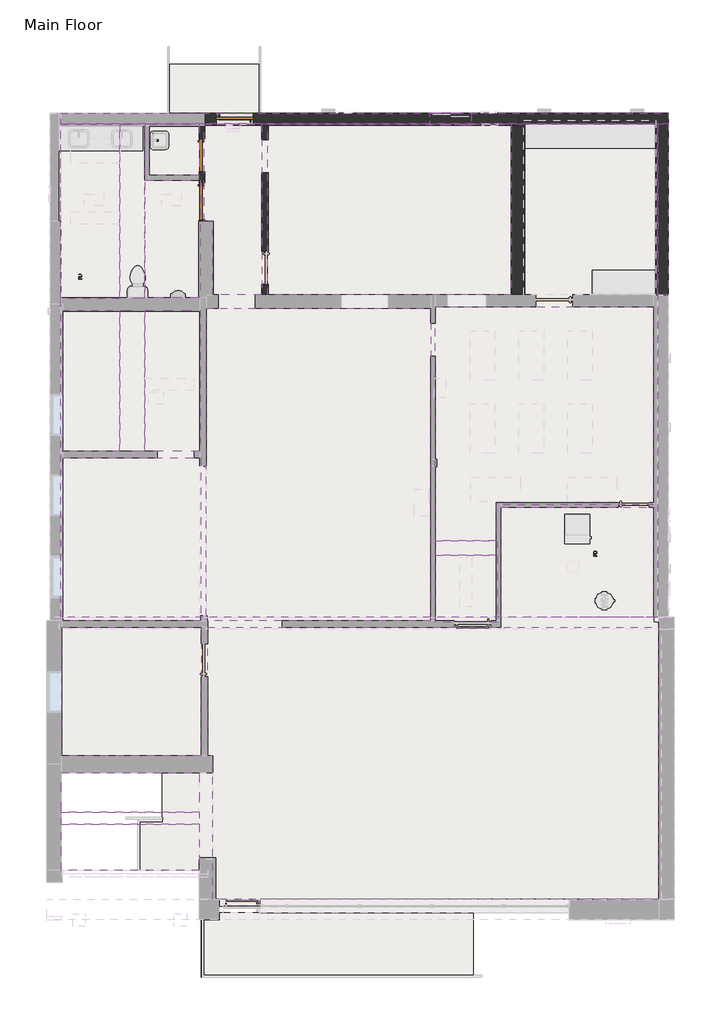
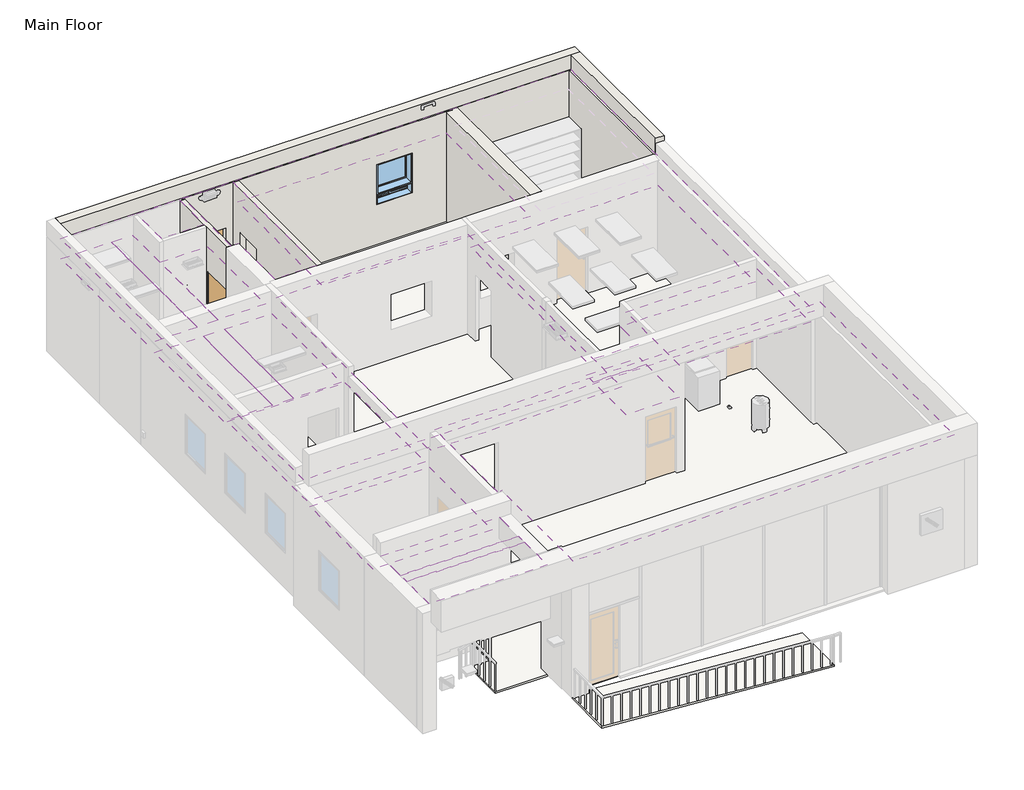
# One storey, part 2 of 4: 20 coverings, 8 walls, 6 doors, 3 slabs, 2 windows, 1 roof.
"""IFC4 building model written with IfcOpenShell, lengths in millimetres."""

from ifc_helpers import new_model, si_unit, frame, origin, place, context, project, spatial, polyline, circle_curve, outline, extrude, faceted_brep, transform, mapped, element, save
from ifc_brep_helpers import plane_surface, revolved_surface, advanced_brep
from components import door_528a3d63, door_7f0c49ba, door_8cb6f799, door_2_8_1d73a7a9, door_e7cd8011, door_4347636e, default_1_75eb9743, default_1_7bcdb6ec

model = new_model("IFC4")

# Units and contexts
model_context = context("Model", 3, world=origin())
ifc_project = project(units=[si_unit("LENGTHUNIT", "METRE", prefix="MILLI")], contexts=[model_context])

# Site, building, storey
site = spatial("IfcSite", under=ifc_project)
building = spatial("IfcBuilding", under=site)
storey = spatial("IfcBuildingStorey", under=building, Name="Main Floor", Elevation=0.0)

# Coverings
placement = place(None, origin())
element("IfcCovering", 1, ObjectType="2\"\" Open Ceiling", at=placement, inside=storey, context=model_context, shape_type="SweptSolid", body=[
    extrude(outline(polyline([(3047.7952, 10042.525), (3047.7952, 11299.825), (4279.9, 11299.825), (4279.9, 10042.525), (3047.7952, 10042.525)])), frame((0.0, 0.0, 3352.8), z_axis=(0.0, 0.0, 1.0), x_axis=(1.0, 0.0, 0.0)), (0.0, 0.0, 1.0), 12.7),
])
element("IfcCovering", 2, ObjectType="2\"\" Open Ceiling", at=placement, inside=storey, context=model_context, shape_type="SweptSolid", body=[
    extrude(outline(polyline([(4400.3452, 11299.825), (5822.95, 11299.825), (5822.95, 7092.95), (4616.2452, 7092.95), (4616.2452, 8896.35), (4400.3452, 8896.35), (4400.3452, 11299.825)])), frame((0.0, 0.0, 3352.8), z_axis=(0.0, 0.0, 1.0), x_axis=(1.0, 0.0, 0.0)), (0.0, 0.0, 1.0), 12.7),
])
element("IfcCovering", 3, ObjectType="2\"\" Open Ceiling", at=placement, inside=storey, context=model_context, shape_type="SweptSolid", body=[
    extrude(outline(polyline([(15494.0, 1852.3857), (15494.0, -852.678), (11717.5643, -852.678), (11717.5643, 1852.3857), (15494.0, 1852.3857)])), frame((0.0, 0.0, 3048.0), z_axis=(0.0, 0.0, 1.0), x_axis=(1.0, 0.0, 0.0)), (0.0, 0.0, 1.0), 12.7),
])
element("IfcCovering", 4, ObjectType="2\"\" Open Ceiling", at=placement, inside=storey, context=model_context, shape_type="SweptSolid", body=[
    extrude(outline(polyline([(15614.65, -1106.678), (15614.65, -7816.85), (4616.45, -7816.85), (4616.45, -4267.2), (4495.8, -4267.2), (4495.8, -1106.678), (15614.65, -1106.678)])), frame((0.0, 0.0, 3784.6), z_axis=(0.0, 0.0, 1.0), x_axis=(1.0, 0.0, 0.0)), (0.0, 0.0, 1.0), 12.7),
])
element("IfcCovering", 5, ObjectType="2\"\" Open Ceiling", at=placement, inside=storey, context=model_context, shape_type="SweptSolid", body=[
    extrude(outline(polyline([(4457.7, 6762.75), (9988.55, 6762.75), (9988.55, -941.578), (4483.1, -941.578), (4483.1, -825.5), (4457.7, -825.5), (4457.7, 6762.75)]), holes=[polyline([(9918.7, 2277.8357), (9601.2, 2277.8357), (9601.2, 1655.5357), (9918.7, 1655.5357), (9918.7, 2277.8357)])]), frame((0.0, 0.0, 3048.0), z_axis=(0.0, 0.0, 1.0), x_axis=(1.0, 0.0, 0.0)), (0.0, 0.0, 1.0), 12.7),
])
element("IfcCovering", 6, ObjectType="2\"\" Open Ceiling", at=placement, inside=storey, context=model_context, shape_type="SweptSolid", body=[
    extrude(outline(polyline([(676.275, 2203.6861217), (1031.875, 2610.0861217), (1031.875, 2590.8), (676.275, 2184.4), (676.275, 2203.6861217)])), frame((10102.85, 0.0, 0.0), z_axis=(1.0, 0.0, 0.0), x_axis=(0.0, 1.0, 0.0)), (0.0, 0.0, 1.0), 1523.7952),
])
element("IfcCovering", 7, ObjectType="2'x2' grid", at=placement, inside=storey, context=model_context, shape_type="Brep", body=[
    faceted_brep([(4318.0, 3073.4, 2795.2), (914.1952, 3073.4, 2795.2), (914.1952, -941.578, 2795.2), (4318.0, -941.578, 2795.2), (3727.2452, 2074.6357, 2795.2), (4044.7452, 2074.6357, 2795.2), (4044.7452, 1807.9357, 2795.2), (3727.2452, 1807.9357, 2795.2), (4318.0, 3073.4, 2743.2), (4318.0, -941.578, 2743.2), (914.1952, -941.578, 2743.2), (914.1952, 3073.4, 2743.2), (3727.2452, 2074.6357, 2743.2), (3727.2452, 1807.9357, 2743.2), (4044.7452, 1807.9357, 2743.2), (4044.7452, 2074.6357, 2743.2), (3244.6452, 2298.625, 2743.2), (3244.6452, 1130.225, 2743.2), (3498.6452, 1130.225, 2743.2), (3498.6452, 2298.625, 2743.2), (3244.6452, 1104.825, 2743.2), (3244.6452, -63.575, 2743.2), (3498.6452, -63.575, 2743.2), (3498.6452, 1104.825, 2743.2), (1746.0452, 2298.625, 2743.2), (1746.0452, 1130.225, 2743.2), (2000.0452, 1130.225, 2743.2), (2000.0452, 2298.625, 2743.2), (1746.0452, 1104.825, 2743.2), (1746.0452, -63.575, 2743.2), (2000.0452, -63.575, 2743.2), (2000.0452, 1104.825, 2743.2), (3244.6452, 2298.625, 2794.0), (3244.6452, 1130.225, 2794.0), (3498.6452, 1130.225, 2794.0), (3498.6452, 2298.625, 2794.0), (3244.6452, 1104.825, 2794.0), (3244.6452, -63.575, 2794.0), (3498.6452, -63.575, 2794.0), (3498.6452, 1104.825, 2794.0), (1746.0452, 2298.625, 2794.0), (1746.0452, 1130.225, 2794.0), (2000.0452, 1130.225, 2794.0), (2000.0452, 2298.625, 2794.0), (1746.0452, 1104.825, 2794.0), (1746.0452, -63.575, 2794.0), (2000.0452, -63.575, 2794.0), (2000.0452, 1104.825, 2794.0)], [[[0, 1, 2, 3], [4, 5, 6, 7]], [[8, 9, 10, 11], [12, 13, 14, 15], [16, 17, 18, 19], [20, 21, 22, 23], [24, 25, 26, 27], [28, 29, 30, 31]], [[1, 0, 8, 11]], [[2, 1, 11, 10]], [[3, 2, 10, 9]], [[0, 3, 9, 8]], [[5, 4, 12, 15]], [[6, 5, 15, 14]], [[7, 6, 14, 13]], [[4, 7, 13, 12]], [[32, 33, 17, 16]], [[33, 34, 18, 17]], [[34, 35, 19, 18]], [[35, 32, 16, 19]], [[32, 35, 34, 33]], [[36, 37, 21, 20]], [[37, 38, 22, 21]], [[38, 39, 23, 22]], [[39, 36, 20, 23]], [[36, 39, 38, 37]], [[40, 41, 25, 24]], [[41, 42, 26, 25]], [[42, 43, 27, 26]], [[43, 40, 24, 27]], [[40, 43, 42, 41]], [[44, 45, 29, 28]], [[45, 46, 30, 29]], [[46, 47, 31, 30]], [[47, 44, 28, 31]], [[44, 47, 46, 45]]]),
])
element("IfcCovering", 8, ObjectType="2'x2' grid", at=placement, inside=storey, context=model_context, shape_type="SweptSolid", body=[
    extrude(outline(polyline([(4286.0452, -4686.3), (4286.0452, -5661.025), (876.0952, -5661.025), (876.0952, -4686.3), (4286.0452, -4686.3)])), frame((0.0, 0.0, 3352.8), z_axis=(0.0, 0.0, 1.0), x_axis=(1.0, 0.0, 0.0)), (0.0, 0.0, 1.0), 52.0),
])
element("IfcCovering", 9, ObjectType="2'x2' grid", at=placement, inside=storey, context=model_context, shape_type="Brep", body=[
    faceted_brep([(4286.0452, -5661.025, 3404.8), (882.4452, -5661.025, 3404.8), (882.4452, -5965.825, 3404.8), (4286.0452, -5965.825, 3404.8), (882.4452, -5661.025, 3352.8), (4286.0452, -5661.025, 3352.8), (4286.0452, -5965.825, 3352.8), (882.4452, -5965.825, 3352.8), (3778.0452, -5686.425, 3352.8), (2609.6452, -5686.425, 3352.8), (2609.6452, -5940.425, 3352.8), (3778.0452, -5940.425, 3352.8), (2578.0452, -5686.425, 3352.8), (1409.6452, -5686.425, 3352.8), (1409.6452, -5940.425, 3352.8), (2578.0452, -5940.425, 3352.8), (3778.0452, -5686.425, 3403.6), (3778.0452, -5940.425, 3403.6), (2609.6452, -5940.425, 3403.6), (2609.6452, -5686.425, 3403.6), (2578.0452, -5686.425, 3403.6), (1409.6452, -5686.425, 3403.6), (1409.6452, -5940.425, 3403.6), (2578.0452, -5940.425, 3403.6)], [[[0, 1, 2, 3]], [[4, 5, 6, 7], [8, 9, 10, 11], [12, 13, 14, 15]], [[1, 0, 5, 4]], [[2, 1, 4, 7]], [[3, 2, 7, 6]], [[0, 3, 6, 5]], [[16, 17, 18, 19]], [[16, 19, 9, 8]], [[19, 18, 10, 9]], [[18, 17, 11, 10]], [[17, 16, 8, 11]], [[20, 21, 13, 12]], [[21, 22, 14, 13]], [[22, 23, 15, 14]], [[23, 20, 12, 15]], [[20, 23, 22, 21]]]),
])
element("IfcCovering", 10, ObjectType="2'x2' grid", at=placement, inside=storey, context=model_context, shape_type="SweptSolid", body=[
    extrude(outline(polyline([(4286.0452, -5965.825), (4286.0452, -7100.57), (876.0952, -7100.57), (876.0952, -5965.825), (4286.0452, -5965.825)])), frame((0.0, 0.0, 3352.8), z_axis=(0.0, 0.0, 1.0), x_axis=(1.0, 0.0, 0.0)), (0.0, 0.0, 1.0), 52.0),
])
element("IfcCovering", 11, ObjectType="2'x2' grid", at=placement, inside=storey, context=model_context, shape_type="Brep", body=[
    faceted_brep([(11626.6452, 676.275, 2236.4), (10102.85, 676.275, 2236.4), (10102.85, -974.725, 2236.4), (11626.6452, -974.725, 2236.4), (10102.85, 676.275, 2184.4), (11626.6452, 676.275, 2184.4), (11626.6452, -974.725, 2184.4), (10102.85, -974.725, 2184.4), (10728.4396867, 592.406585, 2184.4), (10728.4396867, -575.993415, 2184.4), (10982.4396867, -575.993415, 2184.4), (10982.4396867, 592.406585, 2184.4), (10728.4396867, 592.406585, 2235.2), (10982.4396867, 592.406585, 2235.2), (10982.4396867, -575.993415, 2235.2), (10728.4396867, -575.993415, 2235.2)], [[[0, 1, 2, 3]], [[4, 5, 6, 7], [8, 9, 10, 11]], [[1, 0, 5, 4]], [[2, 1, 4, 7]], [[3, 2, 7, 6]], [[0, 3, 6, 5]], [[12, 13, 14, 15]], [[12, 15, 9, 8]], [[15, 14, 10, 9]], [[14, 13, 11, 10]], [[13, 12, 8, 11]]]),
])
element("IfcCovering", 12, ObjectType="2'x2' grid", at=placement, inside=storey, context=model_context, shape_type="Brep", body=[
    faceted_brep([(15494.0, 6800.85, 2642.8), (10102.85, 6800.85, 2642.8), (10102.85, 1031.875, 2642.8), (11603.2643, 1031.875, 2642.8), (11603.2643, 1924.05, 2642.8), (15494.0, 1924.05, 2642.8), (10325.1, 5003.8, 2642.8), (10325.1, 4584.7, 2642.8), (10109.2, 4584.7, 2642.8), (10109.2, 5003.8, 2642.8), (15494.0, 6800.85, 2590.8), (15494.0, 1924.05, 2590.8), (11603.2643, 1924.05, 2590.8), (11603.2643, 1031.875, 2590.8), (10102.85, 1031.875, 2590.8), (10102.85, 6800.85, 2590.8), (10991.85, 6184.9, 2590.8), (10991.85, 5016.5, 2590.8), (11550.65, 5016.5, 2590.8), (11550.65, 6184.9, 2590.8), (12192.0, 6184.9, 2590.8), (12192.0, 5016.5, 2590.8), (12750.8, 5016.5, 2590.8), (12750.8, 6184.9, 2590.8), (13395.325, 6181.725, 2590.8), (13395.325, 5013.325, 2590.8), (13954.125, 5013.325, 2590.8), (13954.125, 6181.725, 2590.8), (10987.3143, 4381.5, 2590.8), (10987.3143, 3213.1, 2590.8), (11546.1143, 3213.1, 2590.8), (11546.1143, 4381.5, 2590.8), (12191.797781, 4378.5366196, 2590.8), (12191.797781, 3210.1366196, 2590.8), (12750.597781, 3210.1366196, 2590.8), (12750.597781, 4378.5366196, 2590.8), (13395.122781, 4381.7116196, 2590.8), (13395.122781, 3213.3116196, 2590.8), (13953.922781, 3213.3116196, 2590.8), (13953.922781, 4381.7116196, 2590.8), (13389.2, 2017.4857, 2590.8), (14557.6, 2017.4857, 2590.8), (14557.6, 2576.2857, 2590.8), (13389.2, 2576.2857, 2590.8), (11000.0143, 2017.4857, 2590.8), (12168.4143, 2017.4857, 2590.8), (12168.4143, 2576.2857, 2590.8), (11000.0143, 2576.2857, 2590.8), (10325.1, 5003.8, 2590.8), (10109.2, 5003.8, 2590.8), (10109.2, 4584.7, 2590.8), (10325.1, 4584.7, 2590.8), (10991.85, 6184.9, 2641.6), (10991.85, 5016.5, 2641.6), (11550.65, 5016.5, 2641.6), (11550.65, 6184.9, 2641.6), (12192.0, 6184.9, 2641.6), (12192.0, 5016.5, 2641.6), (12750.8, 5016.5, 2641.6), (12750.8, 6184.9, 2641.6), (13395.325, 6181.725, 2641.6), (13395.325, 5013.325, 2641.6), (13954.125, 5013.325, 2641.6), (13954.125, 6181.725, 2641.6), (10987.3143, 4381.5, 2641.6), (10987.3143, 3213.1, 2641.6), (11546.1143, 3213.1, 2641.6), (11546.1143, 4381.5, 2641.6), (12191.797781, 4378.5366196, 2641.6), (12191.797781, 3210.1366196, 2641.6), (12750.597781, 3210.1366196, 2641.6), (12750.597781, 4378.5366196, 2641.6), (13395.122781, 4381.7116196, 2641.6), (13395.122781, 3213.3116196, 2641.6), (13953.922781, 3213.3116196, 2641.6), (13953.922781, 4381.7116196, 2641.6), (13389.2, 2017.4857, 2641.6), (14557.6, 2017.4857, 2641.6), (14557.6, 2576.2857, 2641.6), (13389.2, 2576.2857, 2641.6), (11000.0143, 2017.4857, 2641.6), (12168.4143, 2017.4857, 2641.6), (12168.4143, 2576.2857, 2641.6), (11000.0143, 2576.2857, 2641.6)], [[[0, 1, 2, 3, 4, 5], [6, 7, 8, 9]], [[10, 11, 12, 13, 14, 15], [16, 17, 18, 19], [20, 21, 22, 23], [24, 25, 26, 27], [28, 29, 30, 31], [32, 33, 34, 35], [36, 37, 38, 39], [40, 41, 42, 43], [44, 45, 46, 47], [48, 49, 50, 51]], [[1, 0, 10, 15]], [[2, 1, 15, 14]], [[3, 2, 14, 13]], [[4, 3, 13, 12]], [[5, 4, 12, 11]], [[0, 5, 11, 10]], [[52, 53, 17, 16]], [[53, 54, 18, 17]], [[54, 55, 19, 18]], [[55, 52, 16, 19]], [[52, 55, 54, 53]], [[56, 57, 21, 20]], [[57, 58, 22, 21]], [[58, 59, 23, 22]], [[59, 56, 20, 23]], [[56, 59, 58, 57]], [[60, 61, 25, 24]], [[61, 62, 26, 25]], [[62, 63, 27, 26]], [[63, 60, 24, 27]], [[60, 63, 62, 61]], [[64, 65, 29, 28]], [[65, 66, 30, 29]], [[66, 67, 31, 30]], [[67, 64, 28, 31]], [[64, 67, 66, 65]], [[68, 69, 33, 32]], [[69, 70, 34, 33]], [[70, 71, 35, 34]], [[71, 68, 32, 35]], [[68, 71, 70, 69]], [[72, 73, 37, 36]], [[73, 74, 38, 37]], [[74, 75, 39, 38]], [[75, 72, 36, 39]], [[72, 75, 74, 73]], [[76, 77, 41, 40]], [[77, 78, 42, 41]], [[78, 79, 43, 42]], [[79, 76, 40, 43]], [[76, 79, 78, 77]], [[80, 81, 45, 44]], [[81, 82, 46, 45]], [[82, 83, 47, 46]], [[83, 80, 44, 47]], [[80, 83, 82, 81]], [[7, 6, 48, 51]], [[8, 7, 51, 50]], [[9, 8, 50, 49]], [[6, 9, 49, 48]]]),
])
element("IfcCovering", 13, ObjectType="2'x4' grid", at=placement, inside=storey, context=model_context, shape_type="Brep", body=[
    faceted_brep([(4330.7, -4267.2, 2744.4), (4330.7, -1106.678, 2744.4), (888.7952, -1106.678, 2744.4), (888.7952, -4267.2, 2744.4), (4330.7, -4267.2, 2692.4), (888.7952, -4267.2, 2692.4), (888.7952, -1106.678, 2692.4), (4330.7, -1106.678, 2692.4), (3244.6452, -1463.675, 2692.4), (3244.6452, -2632.075, 2692.4), (3498.6452, -2632.075, 2692.4), (3498.6452, -1463.675, 2692.4), (3244.6452, -2670.175, 2692.4), (3244.6452, -3838.575, 2692.4), (3498.6452, -3838.575, 2692.4), (3498.6452, -2670.175, 2692.4), (2044.4952, -1463.675, 2692.4), (2044.4952, -2632.075, 2692.4), (2298.4952, -2632.075, 2692.4), (2298.4952, -1463.675, 2692.4), (2044.4952, -2670.175, 2692.4), (2044.4952, -3838.575, 2692.4), (2298.4952, -3838.575, 2692.4), (2298.4952, -2670.175, 2692.4), (3244.6452, -1463.675, 2743.2), (3244.6452, -2632.075, 2743.2), (3498.6452, -2632.075, 2743.2), (3498.6452, -1463.675, 2743.2), (3244.6452, -2670.175, 2743.2), (3244.6452, -3838.575, 2743.2), (3498.6452, -3838.575, 2743.2), (3498.6452, -2670.175, 2743.2), (2044.4952, -1463.675, 2743.2), (2044.4952, -2632.075, 2743.2), (2298.4952, -2632.075, 2743.2), (2298.4952, -1463.675, 2743.2), (2044.4952, -2670.175, 2743.2), (2044.4952, -3838.575, 2743.2), (2298.4952, -3838.575, 2743.2), (2298.4952, -2670.175, 2743.2)], [[[0, 1, 2, 3]], [[4, 5, 6, 7], [8, 9, 10, 11], [12, 13, 14, 15], [16, 17, 18, 19], [20, 21, 22, 23]], [[1, 0, 4, 7]], [[2, 1, 7, 6]], [[3, 2, 6, 5]], [[0, 3, 5, 4]], [[24, 25, 9, 8]], [[25, 26, 10, 9]], [[26, 27, 11, 10]], [[27, 24, 8, 11]], [[24, 27, 26, 25]], [[28, 29, 13, 12]], [[29, 30, 14, 13]], [[30, 31, 15, 14]], [[31, 28, 12, 15]], [[28, 31, 30, 29]], [[32, 33, 17, 16]], [[33, 34, 18, 17]], [[34, 35, 19, 18]], [[35, 32, 16, 19]], [[32, 35, 34, 33]], [[36, 37, 21, 20]], [[37, 38, 22, 21]], [[38, 39, 23, 22]], [[39, 36, 20, 23]], [[36, 39, 38, 37]]]),
])
element("IfcCovering", 14, ObjectType="2'x4' grid", at=placement, inside=storey, context=model_context, shape_type="Brep", body=[
    faceted_brep([(4311.4452, 3238.5, 2693.6), (4311.4452, 6715.125, 2693.6), (2933.4952, 6715.125, 2693.6), (2933.4952, 3238.5, 2693.6), (3060.7, 4686.3, 2693.6), (3378.2, 4686.3, 2693.6), (3378.2, 4419.6, 2693.6), (3060.7, 4419.6, 2693.6), (4311.4452, 3238.5, 2641.6), (2933.4952, 3238.5, 2641.6), (2933.4952, 6715.125, 2641.6), (4311.4452, 6715.125, 2641.6), (4121.15, 5016.5, 2641.6), (2952.75, 5016.5, 2641.6), (2952.75, 4762.5, 2641.6), (4121.15, 4762.5, 2641.6), (3060.7, 4686.3, 2641.6), (3060.7, 4419.6, 2641.6), (3378.2, 4419.6, 2641.6), (3378.2, 4686.3, 2641.6), (4121.15, 5016.5, 2692.4), (2952.75, 5016.5, 2692.4), (2952.75, 4762.5, 2692.4), (4121.15, 4762.5, 2692.4)], [[[0, 1, 2, 3], [4, 5, 6, 7]], [[8, 9, 10, 11], [12, 13, 14, 15], [16, 17, 18, 19]], [[0, 3, 9, 8]], [[1, 0, 8, 11]], [[2, 1, 11, 10]], [[3, 2, 10, 9]], [[20, 21, 13, 12]], [[21, 22, 14, 13]], [[22, 23, 15, 14]], [[23, 20, 12, 15]], [[20, 23, 22, 21]], [[5, 4, 16, 19]], [[6, 5, 19, 18]], [[7, 6, 18, 17]], [[4, 7, 17, 16]]]),
])
element("IfcCovering", 15, ObjectType="2'x4' grid", at=placement, inside=storey, context=model_context, shape_type="Brep", body=[
    faceted_brep([(2323.8952, 11299.825, 2795.2), (863.3952, 11299.825, 2795.2), (863.3952, 6997.7, 2795.2), (2323.8952, 6997.7, 2795.2), (1479.55, 9540.875, 2795.2), (1898.65, 9540.875, 2795.2), (1898.65, 9324.975, 2795.2), (1479.55, 9324.975, 2795.2), (863.3952, 11299.825, 2743.2), (2323.8952, 11299.825, 2743.2), (2323.8952, 6997.7, 2743.2), (863.3952, 6997.7, 2743.2), (2304.8452, 9121.775, 2743.2), (1136.4452, 9121.775, 2743.2), (1136.4452, 8867.775, 2743.2), (2304.8452, 8867.775, 2743.2), (2304.8452, 10931.525, 2743.2), (1136.4452, 10931.525, 2743.2), (1136.4452, 10372.725, 2743.2), (2304.8452, 10372.725, 2743.2), (1898.65, 9540.875, 2743.2), (1479.55, 9540.875, 2743.2), (1479.55, 9324.975, 2743.2), (1898.65, 9324.975, 2743.2), (2304.8452, 9121.775, 2794.0), (1136.4452, 9121.775, 2794.0), (1136.4452, 8867.775, 2794.0), (2304.8452, 8867.775, 2794.0), (2304.8452, 10931.525, 2794.0), (1136.4452, 10931.525, 2794.0), (1136.4452, 10372.725, 2794.0), (2304.8452, 10372.725, 2794.0)], [[[0, 1, 2, 3], [4, 5, 6, 7]], [[8, 9, 10, 11], [12, 13, 14, 15], [16, 17, 18, 19], [20, 21, 22, 23]], [[1, 0, 9, 8]], [[2, 1, 8, 11]], [[3, 2, 11, 10]], [[0, 3, 10, 9]], [[24, 25, 13, 12]], [[13, 25, 26, 14]], [[14, 26, 27, 15]], [[24, 12, 15, 27]], [[25, 24, 27, 26]], [[28, 29, 17, 16]], [[17, 29, 30, 18]], [[18, 30, 31, 19]], [[28, 16, 19, 31]], [[29, 28, 31, 30]], [[4, 21, 20, 5]], [[5, 20, 23, 6]], [[6, 23, 22, 7]], [[21, 4, 7, 22]]]),
])
element("IfcCovering", 16, ObjectType="2'x4' grid", at=placement, inside=storey, context=model_context, shape_type="AdvancedBrep", body=[
    advanced_brep(
    [(5975.1452, 7092.95, 2744.4), (11982.2452, 7092.95, 2744.4), (11982.2452, 11299.825, 2744.4), (5975.1452, 11299.825, 2744.4), (8008.7452, 9159.875, 2744.4), (8183.3452, 9159.875, 2744.4), (10794.7952, 8543.925, 2744.4), (10794.7952, 7921.625, 2744.4), (10172.4952, 7921.625, 2744.4), (10172.4952, 8543.925, 2744.4), (11982.2452, 7092.95, 2692.4), (5975.1452, 7092.95, 2692.4), (5975.1452, 11299.825, 2692.4), (11982.2452, 11299.825, 2692.4), (7213.3952, 9737.725, 2692.4), (7213.3952, 8569.325, 2692.4), (7772.1952, 8569.325, 2692.4), (7772.1952, 9737.725, 2692.4), (8407.1952, 9737.725, 2692.4), (8407.1952, 8569.325, 2692.4), (8965.9952, 8569.325, 2692.4), (8965.9952, 9737.725, 2692.4), (9600.9952, 9737.725, 2692.4), (9600.9952, 8569.325, 2692.4), (10159.7952, 8569.325, 2692.4), (10159.7952, 9737.725, 2692.4), (10794.7952, 9737.725, 2692.4), (10794.7952, 8569.325, 2692.4), (11353.5952, 8569.325, 2692.4), (11353.5952, 9737.725, 2692.4), (8183.3452, 9159.875, 2692.4), (8008.7452, 9159.875, 2692.4), (10794.7952, 7921.625, 2692.4), (10794.7952, 8543.925, 2692.4), (10172.4952, 8543.925, 2692.4), (10172.4952, 7921.625, 2692.4), (7213.3952, 9737.725, 2743.2), (7213.3952, 8569.325, 2743.2), (7772.1952, 8569.325, 2743.2), (7772.1952, 9737.725, 2743.2), (8407.1952, 9737.725, 2743.2), (8407.1952, 8569.325, 2743.2), (8965.9952, 8569.325, 2743.2), (8965.9952, 9737.725, 2743.2), (9600.9952, 9737.725, 2743.2), (9600.9952, 8569.325, 2743.2), (10159.7952, 8569.325, 2743.2), (10159.7952, 9737.725, 2743.2), (10794.7952, 9737.725, 2743.2), (10794.7952, 8569.325, 2743.2), (11353.5952, 8569.325, 2743.2), (11353.5952, 9737.725, 2743.2)],
    [
        (0, 1),
        (1, 2),
        (2, 3),
        (3, 0),
        (4, 5, circle_curve(frame((8096.0452, 9159.875, 2744.4), z_axis=(0.0, 0.0, -1.0), x_axis=(1.0, 0.0, 0.0)), 87.3)),
        (5, 4, circle_curve(frame((8096.0452, 9159.875, 2744.4), z_axis=(0.0, 0.0, -1.0), x_axis=(1.0, 0.0, 0.0)), 87.3)),
        (6, 7),
        (7, 8),
        (8, 9),
        (9, 6),
        (10, 11),
        (11, 12),
        (12, 13),
        (13, 10),
        (14, 15),
        (15, 16),
        (16, 17),
        (17, 14),
        (18, 19),
        (19, 20),
        (20, 21),
        (21, 18),
        (22, 23),
        (23, 24),
        (24, 25),
        (25, 22),
        (26, 27),
        (27, 28),
        (28, 29),
        (29, 26),
        (30, 31, circle_curve(frame((8096.0452, 9159.875, 2692.4), z_axis=(0.0, 0.0, 1.0), x_axis=(1.0, 0.0, 0.0)), 87.3)),
        (31, 30, circle_curve(frame((8096.0452, 9159.875, 2692.4), z_axis=(0.0, 0.0, 1.0), x_axis=(1.0, 0.0, 0.0)), 87.3)),
        (32, 33),
        (33, 34),
        (34, 35),
        (35, 32),
        (0, 11),
        (10, 1),
        (13, 2),
        (12, 3),
        (36, 37),
        (37, 15),
        (14, 36),
        (37, 38),
        (38, 16),
        (38, 39),
        (39, 17),
        (39, 36),
        (40, 41),
        (41, 19),
        (18, 40),
        (41, 42),
        (42, 20),
        (42, 43),
        (43, 21),
        (43, 40),
        (44, 45),
        (45, 23),
        (22, 44),
        (45, 46),
        (46, 24),
        (46, 47),
        (47, 25),
        (47, 44),
        (48, 49),
        (49, 27),
        (26, 48),
        (49, 50),
        (50, 28),
        (50, 51),
        (51, 29),
        (51, 48),
        (30, 5),
        (4, 31),
        (6, 33),
        (32, 7),
        (35, 8),
        (34, 9),
    ],
    [
        plane_surface(frame((5975.1452, 11477.625, 2744.4), z_axis=(0.0, 0.0, 1.0), x_axis=(0.0, -1.0, 0.0))),
        plane_surface(frame((5975.1452, 11477.625, 2692.4), z_axis=(0.0, 0.0, -1.0), x_axis=(0.0, 1.0, 0.0))),
        plane_surface(frame((5975.1452, 7092.95, 2744.4), z_axis=(0.0, -1.0, 0.0), x_axis=(0.0, 0.0, -1.0))),
        plane_surface(frame((11982.2452, 7092.95, 2744.4), z_axis=(1.0, 0.0, 0.0), x_axis=(0.0, 0.0, -1.0))),
        plane_surface(frame((11982.2452, 11299.825, 2744.4), z_axis=(0.0, 1.0, 0.0), x_axis=(0.0, 0.0, -1.0))),
        plane_surface(frame((5975.1452, 11299.825, 2744.4), z_axis=(-1.0, 0.0, 0.0), x_axis=(0.0, 0.0, -1.0))),
        plane_surface(frame((7213.3952, 9737.725, 2743.2), z_axis=(1.0, 0.0, 0.0), x_axis=(0.0, 0.0, -1.0))),
        plane_surface(frame((7213.3952, 8569.325, 2743.2), z_axis=(0.0, 1.0, 0.0), x_axis=(0.0, 0.0, -1.0))),
        plane_surface(frame((7772.1952, 8569.325, 2743.2), z_axis=(-1.0, 0.0, 0.0), x_axis=(0.0, 0.0, -1.0))),
        plane_surface(frame((7772.1952, 9737.725, 2743.2), z_axis=(0.0, -1.0, 0.0), x_axis=(0.0, 0.0, -1.0))),
        plane_surface(frame((7213.3952, 8569.325, 2743.2), z_axis=(0.0, 0.0, -1.0), x_axis=(0.0, -1.0, 0.0))),
        plane_surface(frame((8407.1952, 9737.725, 2743.2), z_axis=(1.0, 0.0, 0.0), x_axis=(0.0, 0.0, -1.0))),
        plane_surface(frame((8407.1952, 8569.325, 2743.2), z_axis=(0.0, 1.0, 0.0), x_axis=(0.0, 0.0, -1.0))),
        plane_surface(frame((8965.9952, 8569.325, 2743.2), z_axis=(-1.0, 0.0, 0.0), x_axis=(0.0, 0.0, -1.0))),
        plane_surface(frame((8965.9952, 9737.725, 2743.2), z_axis=(0.0, -1.0, 0.0), x_axis=(0.0, 0.0, -1.0))),
        plane_surface(frame((8407.1952, 8569.325, 2743.2), z_axis=(0.0, 0.0, -1.0), x_axis=(0.0, -1.0, 0.0))),
        plane_surface(frame((9600.9952, 9737.725, 2743.2), z_axis=(1.0, 0.0, 0.0), x_axis=(0.0, 0.0, -1.0))),
        plane_surface(frame((9600.9952, 8569.325, 2743.2), z_axis=(0.0, 1.0, 0.0), x_axis=(0.0, 0.0, -1.0))),
        plane_surface(frame((10159.7952, 8569.325, 2743.2), z_axis=(-1.0, 0.0, 0.0), x_axis=(0.0, 0.0, -1.0))),
        plane_surface(frame((10159.7952, 9737.725, 2743.2), z_axis=(0.0, -1.0, 0.0), x_axis=(0.0, 0.0, -1.0))),
        plane_surface(frame((9600.9952, 8569.325, 2743.2), z_axis=(0.0, 0.0, -1.0), x_axis=(0.0, -1.0, 0.0))),
        plane_surface(frame((10794.7952, 9737.725, 2743.2), z_axis=(1.0, 0.0, 0.0), x_axis=(0.0, 0.0, -1.0))),
        plane_surface(frame((10794.7952, 8569.325, 2743.2), z_axis=(0.0, 1.0, 0.0), x_axis=(0.0, 0.0, -1.0))),
        plane_surface(frame((11353.5952, 8569.325, 2743.2), z_axis=(-1.0, 0.0, 0.0), x_axis=(0.0, 0.0, -1.0))),
        plane_surface(frame((11353.5952, 9737.725, 2743.2), z_axis=(0.0, -1.0, 0.0), x_axis=(0.0, 0.0, -1.0))),
        plane_surface(frame((10794.7952, 8569.325, 2743.2), z_axis=(0.0, 0.0, -1.0), x_axis=(0.0, -1.0, 0.0))),
        revolved_surface(polyline([(8183.3452, 9159.875, 2744.4), (8183.3452, 9159.875, 2692.4)]), (8096.0452, 9159.875, 2641.6), (0.0, 0.0, 1.0)),
        plane_surface(frame((10794.7952, 8543.925, 1168.4), z_axis=(-1.0, 0.0, 0.0), x_axis=(0.0, 0.0, 1.0))),
        plane_surface(frame((10794.7952, 7921.625, 1168.4), z_axis=(0.0, 1.0, 0.0), x_axis=(0.0, 0.0, 1.0))),
        plane_surface(frame((10172.4952, 7921.625, 1168.4), z_axis=(1.0, 0.0, 0.0), x_axis=(0.0, 0.0, 1.0))),
        plane_surface(frame((10172.4952, 8543.925, 1168.4), z_axis=(0.0, -1.0, 0.0), x_axis=(0.0, 0.0, 1.0))),
    ],
    [
        (0, [[1, 2, 3, 4], [5, 6], [7, 8, 9, 10]]),
        (1, [[11, 12, 13, 14], [15, 16, 17, 18], [19, 20, 21, 22], [23, 24, 25, 26], [27, 28, 29, 30], [31, 32], [33, 34, 35, 36]]),
        (2, [[-1, 37, -11, 38]]),
        (3, [[-2, -38, -14, 39]]),
        (4, [[-3, -39, -13, 40]]),
        (5, [[-4, -40, -12, -37]]),
        (6, [[41, 42, -15, 43]]),
        (7, [[-42, 44, 45, -16]]),
        (8, [[-45, 46, 47, -17]]),
        (9, [[-43, -18, -47, 48]]),
        (10, [[-41, -48, -46, -44]]),
        (11, [[49, 50, -19, 51]]),
        (12, [[-50, 52, 53, -20]]),
        (13, [[-53, 54, 55, -21]]),
        (14, [[-51, -22, -55, 56]]),
        (15, [[-49, -56, -54, -52]]),
        (16, [[57, 58, -23, 59]]),
        (17, [[-58, 60, 61, -24]]),
        (18, [[-61, 62, 63, -25]]),
        (19, [[-59, -26, -63, 64]]),
        (20, [[-57, -64, -62, -60]]),
        (21, [[65, 66, -27, 67]]),
        (22, [[-66, 68, 69, -28]]),
        (23, [[-69, 70, 71, -29]]),
        (24, [[-67, -30, -71, 72]]),
        (25, [[-65, -72, -70, -68]]),
        (26, [[73, -5, 74, -31]]),
        (26, [[-73, -32, -74, -6]]),
        (27, [[75, -33, 76, -7]]),
        (28, [[-76, -36, 77, -8]]),
        (29, [[-77, -35, 78, -9]]),
        (30, [[-75, -10, -78, -34]]),
    ],
),
])
element("IfcCovering", 17, ObjectType="2'x4' grid", at=placement, inside=storey, context=model_context, shape_type="SweptSolid", body=[
    extrude(outline(polyline([(2933.4952, 11299.825), (2933.4952, 7010.4), (2323.8952, 7010.4), (2323.8952, 11299.825), (2933.4952, 11299.825)])), frame((0.0, 0.0, 2743.2), z_axis=(0.0, 0.0, 1.0), x_axis=(1.0, 0.0, 0.0)), (0.0, 0.0, 1.0), 52.0),
])
element("IfcCovering", 18, ObjectType="2'x4' grid", at=placement, inside=storey, context=model_context, shape_type="Brep", body=[
    faceted_brep([(4305.3, 9928.225, 2795.2), (2933.4952, 9928.225, 2795.2), (2933.4952, 7023.1, 2795.2), (4305.3, 7023.1, 2795.2), (3384.55, 9540.875, 2795.2), (3803.65, 9540.875, 2795.2), (3803.65, 9324.975, 2795.2), (3384.55, 9324.975, 2795.2), (4305.3, 9928.225, 2743.2), (4305.3, 7023.1, 2743.2), (2933.4952, 7023.1, 2743.2), (2933.4952, 9928.225, 2743.2), (4108.0952, 9121.946108, 2743.2), (2939.6952, 9121.946108, 2743.2), (2939.6952, 8867.946108, 2743.2), (4108.0952, 8867.946108, 2743.2), (3384.55, 9540.875, 2743.2), (3384.55, 9324.975, 2743.2), (3803.65, 9324.975, 2743.2), (3803.65, 9540.875, 2743.2), (4108.0952, 9121.946108, 2794.0), (2939.6952, 9121.946108, 2794.0), (2939.6952, 8867.946108, 2794.0), (4108.0952, 8867.946108, 2794.0)], [[[0, 1, 2, 3], [4, 5, 6, 7]], [[8, 9, 10, 11], [12, 13, 14, 15], [16, 17, 18, 19]], [[1, 0, 8, 11]], [[2, 1, 11, 10]], [[3, 2, 10, 9]], [[0, 3, 9, 8]], [[20, 21, 13, 12]], [[21, 22, 14, 13]], [[22, 23, 15, 14]], [[23, 20, 12, 15]], [[20, 23, 22, 21]], [[5, 4, 16, 19]], [[6, 5, 19, 18]], [[7, 6, 18, 17]], [[4, 7, 17, 16]]]),
])
element("IfcCovering", 19, ObjectType="2'x4' grid", at=placement, inside=storey, context=model_context, shape_type="Brep", body=[
    faceted_brep([(2323.8952, 6715.125, 2693.6), (2323.8952, 3238.5, 2693.6), (2933.4952, 3238.5, 2693.6), (2933.4952, 6715.125, 2693.6), (2323.8952, 3238.5, 2641.6), (2323.8952, 6715.125, 2641.6), (2933.4952, 6715.125, 2641.6), (2933.4952, 3238.5, 2641.6), (2355.6452, 4733.925, 2641.6), (2355.6452, 3565.525, 2641.6), (2914.4452, 3565.525, 2641.6), (2914.4452, 4733.925, 2641.6), (2355.6452, 4733.925, 2692.4), (2914.4452, 4733.925, 2692.4), (2914.4452, 3565.525, 2692.4), (2355.6452, 3565.525, 2692.4)], [[[0, 1, 2, 3]], [[4, 5, 6, 7], [8, 9, 10, 11]], [[1, 0, 5, 4]], [[2, 1, 4, 7]], [[3, 2, 7, 6]], [[0, 3, 6, 5]], [[12, 13, 14, 15]], [[12, 15, 9, 8]], [[15, 14, 10, 9]], [[14, 13, 11, 10]], [[13, 12, 8, 11]]]),
])
element("IfcCovering", 20, ObjectType="2'x4' grid", at=placement, inside=storey, context=model_context, shape_type="Brep", body=[
    faceted_brep([(914.1952, 6715.125, 2693.6), (914.1952, 3238.5, 2693.6), (2323.8952, 3238.5, 2693.6), (2323.8952, 6715.125, 2693.6), (1847.6452, 6532.5225407, 2693.6), (1847.6452, 6215.0225407, 2693.6), (1580.9452, 6215.0225407, 2693.6), (1580.9452, 6532.5225407, 2693.6), (1917.4952, 3978.275, 2693.6), (2234.9952, 3978.275, 2693.6), (2234.9952, 3711.575, 2693.6), (1917.4952, 3711.575, 2693.6), (914.1952, 6715.125, 2641.6), (2323.8952, 6715.125, 2641.6), (2323.8952, 3238.5, 2641.6), (914.1952, 3238.5, 2641.6), (1847.6452, 6532.5225407, 2641.6), (1580.9452, 6532.5225407, 2641.6), (1580.9452, 6215.0225407, 2641.6), (1847.6452, 6215.0225407, 2641.6), (2304.8452, 5038.725, 2641.6), (1136.4452, 5038.725, 2641.6), (1136.4452, 4784.725, 2641.6), (2304.8452, 4784.725, 2641.6), (1917.4952, 3978.275, 2641.6), (1917.4952, 3711.575, 2641.6), (2234.9952, 3711.575, 2641.6), (2234.9952, 3978.275, 2641.6), (2304.8452, 5038.725, 2692.4), (1136.4452, 5038.725, 2692.4), (1136.4452, 4784.725, 2692.4), (2304.8452, 4784.725, 2692.4)], [[[0, 1, 2, 3], [4, 5, 6, 7], [8, 9, 10, 11]], [[12, 13, 14, 15], [16, 17, 18, 19], [20, 21, 22, 23], [24, 25, 26, 27]], [[1, 0, 12, 15]], [[2, 1, 15, 14]], [[3, 2, 14, 13]], [[0, 3, 13, 12]], [[5, 4, 16, 19]], [[6, 5, 19, 18]], [[7, 6, 18, 17]], [[4, 7, 17, 16]], [[28, 29, 21, 20]], [[29, 30, 22, 21]], [[30, 31, 23, 22]], [[31, 28, 20, 23]], [[28, 31, 30, 29]], [[9, 8, 24, 27]], [[10, 9, 27, 26]], [[11, 10, 26, 25]], [[8, 11, 25, 24]]]),
])

# Doors
door_shape = door_528a3d63(model_context)
element("IfcDoor", 21, ObjectType="Planitar - Swap_Flush Panel : Planitar - Swap_Flush Panel", at=placement, inside=storey, context=model_context, shape_type="MappedRepresentation", body=[
    mapped(door_shape, transform((5156.2, 11449.05, 0.0), x_axis=(1.0, 0.0, 0.0), y_axis=(0.0, 1.0, 0.0), z_axis=(0.0, 0.0, 1.0))),
])
door_2_shape = door_7f0c49ba(model_context)
element("IfcDoor", 22, ObjectType="Planitar - Swap_Flush Panel : Planitar - Swap_Flush Panel", at=placement, inside=storey, context=model_context, shape_type="MappedRepresentation", body=[
    mapped(door_2_shape, transform((4324.35, 10544.175, 0.0), x_axis=(0.0, -1.0, 0.0), y_axis=(1.0, 0.0, 0.0), z_axis=(0.0, 0.0, 1.0))),
])
door_3_shape = door_8cb6f799(model_context)
element("IfcDoor", 23, ObjectType="Planitar - Swap_Flush Panel : Planitar - Swap_Flush Panel", at=placement, inside=storey, context=model_context, shape_type="MappedRepresentation", body=[
    mapped(door_3_shape, transform((4324.35, 9404.35, 0.0), x_axis=(0.0, -1.0, 0.0), y_axis=(1.0, 0.0, 0.0), z_axis=(0.0, 0.0, 1.0))),
])
door_2_8_shape = door_2_8_1d73a7a9(model_context)
element("IfcDoor", 24, ObjectType="Planitar - Single Door : 2'8", at=placement, inside=storey, context=model_context, shape_type="MappedRepresentation", body=[
    mapped(door_2_8_shape, transform((4349.75, 10544.175, 0.0), x_axis=(0.0, -1.0, 0.0), y_axis=(1.0, 0.0, 0.0), z_axis=(0.0, 0.0, 1.0))),
])
door_4_shape = door_e7cd8011(model_context)
element("IfcDoor", 25, ObjectType="Planitar - Single Door : 3'-0 x 6'-8\"", at=placement, inside=storey, context=model_context, shape_type="MappedRepresentation", body=[
    mapped(door_4_shape, transform((5156.2, 11423.65, 0.0), x_axis=(1.0, 0.0, 0.0), y_axis=(0.0, 1.0, 0.0), z_axis=(0.0, 0.0, 1.0))),
])
door_5_shape = door_4347636e(model_context)
element("IfcDoor", 26, ObjectType="Planitar - Single Door : 3'-0 x 6'-8\"", at=placement, inside=storey, context=model_context, shape_type="MappedRepresentation", body=[
    mapped(door_5_shape, transform((4349.75, 9404.35, 0.0), x_axis=(0.0, -1.0, 0.0), y_axis=(1.0, 0.0, 0.0), z_axis=(0.0, 0.0, 1.0))),
])

# Roof
element("IfcRoof", 27, ObjectType="Planitar Flat Roof - 11.5\"", at=placement, inside=storey, context=model_context, shape_type="SweptSolid", body=[
    extrude(outline(polyline([(863.3952, 11315.7), (15595.6, 11315.7), (15595.6, -850.9), (863.3952, -850.9), (863.3952, 11315.7)])), frame((0.0, 0.0, 3352.8), z_axis=(0.0, 0.0, 1.0), x_axis=(1.0, 0.0, 0.0)), (0.0, 0.0, 1.0), 292.1),
])

# Slabs
element("IfcSlab", 28, ObjectType="Ledge - 2\"", at=placement, inside=storey, context=model_context, shape_type="SweptSolid", body=[
    extrude(outline(polyline([(888.7952, -1024.128), (914.1952, -1024.128), (914.1952, 6858.0), (863.3952, 6858.0), (863.3952, 8915.4), (812.5952, 8915.4), (812.5952, 11252.2), (4349.75, 11252.2), (4349.75, 11277.6), (12147.55, 11277.6), (12147.55, 11315.7), (15544.8, 11315.7), (15544.8, 6946.9), (15494.0, 6946.9), (15494.0, -979.678), (15614.65, -979.678), (15614.65, -7810.5), (13411.2, -7810.5), (13411.2, -7981.95), (4692.65, -7981.95), (4692.65, -7100.57), (2787.65, -7100.57), (2787.65, -5835.65), (3365.5, -5835.65), (3365.5, -4476.75), (888.7952, -4476.75), (888.7952, -1024.128)])), frame((0.0, 0.0, -50.8), z_axis=(0.0, 0.0, 1.0), x_axis=(1.0, 0.0, 0.0)), (0.0, 0.0, 1.0), 50.8),
])
element("IfcSlab", 29, ObjectType="Ledge - 2\"", at=placement, inside=storey, context=model_context, shape_type="SweptSolid", body=[
    extrude(outline(polyline([(-50.9179117, 4337.05), (-508.0598581, 11042.65), (-457.1419464, 11042.65), (0.0, 4337.05), (-50.9179117, 4337.05)])), frame((0.0, -9740.9, 0.0), z_axis=(0.0, 1.0, 0.0), x_axis=(0.0, 0.0, 1.0)), (0.0, 0.0, 1.0), 1593.85),
])
element("IfcSlab", 30, ObjectType="Ledge - 2\"", at=placement, inside=storey, context=model_context, shape_type="SweptSolid", body=[
    extrude(outline(polyline([(5799.7240582, 11569.7), (3513.7240582, 11569.7), (3513.7240582, 12788.9), (5799.7240582, 12788.9), (5799.7240582, 11569.7)])), frame((0.0, 0.0, -50.8), z_axis=(0.0, 0.0, 1.0), x_axis=(1.0, 0.0, 0.0)), (0.0, 0.0, 1.0), 50.8),
])

# Walls
element("IfcWall", 31, ObjectType="Planitar - Generic 11 1/2\"", at=placement, inside=storey, context=model_context, shape_type="Brep", body=[
    faceted_brep([(4349.75, 11277.6, -279.4), (12147.55, 11277.6, -279.4), (12147.55, 11277.6, 0.0), (12147.55, 11277.6, 3340.1), (12147.55, 11277.6, 3352.8), (4349.75, 11277.6, 3352.8), (4349.75, 11277.6, 3340.1), (4419.6, 11277.6, 3340.1), (4419.6, 11277.6, 0.0), (4349.75, 11277.6, 0.0), (10991.85, 11277.6, 1219.2), (9975.85, 11277.6, 1219.2), (9975.85, 11277.6, 2438.4), (10991.85, 11277.6, 2438.4), (5613.4, 11277.6, 2032.0), (5613.4, 11277.6, 0.0), (4699.0, 11277.6, 0.0), (4699.0, 11277.6, 2032.0), (12147.55, 11569.7, -279.4), (4349.75, 11569.7, -279.4), (4349.75, 11569.7, -152.4), (4349.75, 11569.7, 0.0), (4419.6, 11569.7, 0.0), (4419.6, 11569.7, 3340.1), (4349.75, 11569.7, 3340.1), (4349.75, 11569.7, 3352.8), (12147.55, 11569.7, 3352.8), (9975.85, 11569.7, 1219.2), (10991.85, 11569.7, 1219.2), (10991.85, 11569.7, 2438.4), (9975.85, 11569.7, 2438.4), (5613.4, 11569.7, 0.0), (5613.4, 11569.7, 2032.0), (4699.0, 11569.7, 2032.0), (4699.0, 11569.7, 0.0), (12147.55, 11315.7, 3352.8)], [[[0, 1, 2, 3, 4, 5, 6, 7, 8, 9], [10, 11, 12, 13], [14, 15, 16, 17]], [[18, 19, 20, 21, 22, 23, 24, 25, 26], [27, 28, 29, 30], [31, 32, 33, 34]], [[28, 10, 13, 29]], [[11, 10, 28, 27]], [[11, 27, 30, 12]], [[12, 30, 29, 13]], [[31, 15, 14, 32]], [[32, 14, 17, 33]], [[33, 17, 16, 34]], [[15, 31, 34, 16]], [[1, 0, 19, 18]], [[5, 4, 35, 26, 25]], [[18, 26, 35, 4, 3, 2, 1]], [[19, 0, 9, 21, 20]], [[22, 21, 9, 8]], [[5, 25, 24, 6]], [[6, 24, 23, 7]], [[8, 7, 23, 22]]]),
])
element("IfcWall", 32, ObjectType="Planitar - Generic 10\"", at=placement, inside=storey, context=model_context, shape_type="Brep", body=[
    faceted_brep([(12147.55, 11315.7, 3352.8), (12147.55, 11315.7, 3340.1), (12147.55, 11315.7, 0.0), (12147.55, 11315.7, -304.8), (12312.65, 11315.7, -304.8), (12312.65, 11315.7, 0.0), (12312.65, 11315.7, 152.4), (15544.8, 11315.7, 152.4), (15849.6, 11315.7, 152.4), (15849.6, 11315.7, 3327.4), (15849.6, 11315.7, 3352.8), (12147.55, 11569.7, -304.8), (12147.55, 11569.7, -279.4), (12147.55, 11569.7, 3352.8), (15849.6, 11569.7, 3352.8), (15849.6, 11569.7, 152.4), (15544.8, 11569.7, 152.4), (12312.65, 11569.7, 152.4), (12312.65, 11569.7, -304.8)], [[[0, 1, 2, 3, 4, 5, 6, 7, 8, 9, 10]], [[11, 12, 13, 14, 15, 16, 17, 18]], [[10, 9, 8, 15, 14]], [[8, 7, 6, 17, 16, 15]], [[0, 10, 14, 13]], [[4, 3, 11, 18]], [[6, 5, 4, 18, 17]], [[0, 13, 12, 11, 3, 2, 1]]]),
])
element("IfcWall", 33, ObjectType="Planitar - Generic 1' - 0\"", at=placement, inside=storey, context=model_context, shape_type="Brep", body=[
    faceted_brep([(15544.8, 11315.7, 152.4), (15544.8, 7092.95, 152.4), (15544.8, 7091.172, 152.4), (15544.8, 7091.172, 3327.4), (15544.8, 11315.7, 3327.4), (15849.6, 11315.7, 152.4), (15849.6, 11315.7, 3327.4), (15849.6, 7091.172, 3327.4), (15849.6, 7091.172, 152.4)], [[[0, 1, 2, 3, 4]], [[5, 6, 7, 8]], [[0, 4, 6, 5]], [[2, 1, 0, 5, 8]], [[3, 2, 8, 7]], [[4, 3, 7, 6]]]),
])
element("IfcWall", 34, ObjectType="Planitar - Generic 6 1/2\"", at=placement, inside=storey, context=model_context, shape_type="SweptSolid", body=[
    extrude(outline(polyline([(11277.6, 0.0), (10915.65, 0.0), (10915.65, 2032.0), (10102.85, 2032.0), (10102.85, 0.0), (8172.45, 0.0), (8172.45, 2032.0), (7359.65, 2032.0), (7359.65, 0.0), (7092.95, 0.0), (7092.95, 3340.1), (11277.6, 3340.1), (11277.6, 0.0)])), frame((5822.95, 0.0, 0.0), z_axis=(1.0, 0.0, 0.0), x_axis=(0.0, 1.0, 0.0)), (0.0, 0.0, 1.0), 165.1),
])
element("IfcWall", 35, ObjectType="Planitar - Generic 5 1/2\"", at=placement, inside=storey, context=model_context, shape_type="Brep", body=[
    faceted_brep([(4419.6, 11252.2, 3340.1), (4419.6, 8915.4, 3340.1), (4419.6, 8915.4, 0.0), (4419.6, 8947.15, 0.0), (4419.6, 8947.15, 2032.0), (4419.6, 9861.55, 2032.0), (4419.6, 9861.55, 0.0), (4419.6, 10137.775, 0.0), (4419.6, 10137.775, 2032.0), (4419.6, 10950.575, 2032.0), (4419.6, 10950.575, 0.0), (4419.6, 11252.2, 0.0), (4279.9, 8915.4, 3340.1), (4279.9, 9928.225, 3340.1), (4279.9, 10042.525, 3340.1), (4279.9, 11252.2, 3340.1), (4279.9, 11252.2, 0.0), (4279.9, 10950.575, 0.0), (4279.9, 10950.575, 2032.0), (4279.9, 10137.775, 2032.0), (4279.9, 10137.775, 0.0), (4279.9, 10042.525, 0.0), (4279.9, 9928.225, 0.0), (4279.9, 9861.55, 0.0), (4279.9, 9861.55, 2032.0), (4279.9, 8947.15, 2032.0), (4279.9, 8947.15, 0.0), (4279.9, 8915.4, 0.0), (4349.75, 11252.2, 0.0), (4349.75, 11252.2, 3340.1)], [[[0, 1, 2, 3, 4, 5, 6, 7, 8, 9, 10, 11]], [[12, 13, 14, 15, 16, 17, 18, 19, 20, 21, 22, 23, 24, 25, 26, 27]], [[2, 27, 26, 3]], [[11, 10, 17, 16, 28]], [[20, 7, 6, 23, 22, 21]], [[1, 0, 29, 15, 14, 13, 12]], [[2, 1, 12, 27]], [[19, 8, 7, 20]], [[8, 19, 18, 9]], [[9, 18, 17, 10]], [[25, 4, 3, 26]], [[4, 25, 24, 5]], [[5, 24, 23, 6]], [[0, 11, 28, 16, 15, 29]]]),
])
element("IfcWall", 36, ObjectType="Planitar - Generic 1' - 1\"", at=placement, inside=storey, context=model_context, shape_type="Brep", body=[
    faceted_brep([(12312.65, 7092.95, 0.0), (12312.65, 11315.7, 0.0), (12312.65, 11315.7, 152.4), (12312.65, 11315.7, 3340.1), (12312.65, 7092.95, 3340.1), (11982.45, 7092.95, 0.0), (11982.45, 7092.95, 3340.1), (11982.45, 11277.6, 3340.1), (11982.45, 11277.6, 0.0), (12147.55, 11277.6, 0.0), (12147.55, 11315.7, 0.0), (12147.55, 11315.7, 3340.1), (12147.55, 11277.6, 3340.1)], [[[0, 1, 2, 3, 4]], [[5, 6, 7, 8]], [[1, 0, 5, 8, 9, 10]], [[4, 3, 11, 12, 7, 6]], [[0, 4, 6, 5]], [[1, 10, 11, 3, 2]], [[11, 10, 9, 12]], [[12, 9, 8, 7]]]),
])
element("IfcWall", 37, ObjectType="Planitar - Generic 10\"", at=placement, inside=storey, context=model_context, shape_type="Brep", body=[
    faceted_brep([(863.3952, 11315.7, 3352.8), (15595.6, 11315.7, 3352.8), (15849.6, 11315.7, 3352.8), (15849.6, 11315.7, 3810.0), (15595.6, 11315.7, 3810.0), (863.3952, 11315.7, 3810.0), (863.3952, 11569.7, 3352.8), (863.3952, 11569.7, 3810.0), (15849.6, 11569.7, 3810.0), (15849.6, 11569.7, 3352.8)], [[[0, 1, 2, 3, 4, 5]], [[6, 7, 8, 9]], [[2, 1, 0, 6, 9]], [[5, 4, 3, 8, 7]], [[0, 5, 7, 6]], [[3, 2, 9, 8]]]),
])
element("IfcWall", 38, ObjectType="Planitar - Generic 10\"", at=placement, inside=storey, context=model_context, shape_type="Brep", body=[
    faceted_brep([(15595.6, 11315.7, 3352.8), (15595.6, 7092.95, 3352.8), (15595.6, 7092.95, 3657.6), (15595.6, 7092.95, 3810.0), (15595.6, 11315.7, 3810.0), (15849.6, 11315.7, 3352.8), (15849.6, 11315.7, 3810.0), (15849.6, 7092.95, 3810.0), (15849.6, 7092.95, 3657.6), (15849.6, 7092.95, 3352.8)], [[[0, 1, 2, 3, 4]], [[5, 6, 7, 8, 9]], [[1, 0, 5, 9]], [[3, 2, 1, 9, 8, 7]], [[4, 3, 7, 6]], [[0, 4, 6, 5]]]),
])

# Windows
default_1_shape = default_1_75eb9743(model_context)
element("IfcWindow", 39, ObjectType="Planitar-Fixed : Default 1", at=placement, inside=storey, context=model_context, shape_type="MappedRepresentation", body=[
    mapped(default_1_shape, transform((10483.85, 11410.65, 609.6), x_axis=(1.0, 0.0, 0.0), y_axis=(0.0, 1.0, 0.0), z_axis=(0.0, 0.0, 1.0))),
])
default_1_2_shape = default_1_7bcdb6ec(model_context)
element("IfcWindow", 40, ObjectType="Planitar-Sliding-Double : Default 1", at=placement, inside=storey, context=model_context, shape_type="MappedRepresentation", body=[
    mapped(default_1_2_shape, transform((10483.85, 11427.46, 304.8), x_axis=(1.0, 0.0, 0.0), y_axis=(0.0, 1.0, 0.0), z_axis=(0.0, 0.0, 1.0))),
])

save(model, "model.ifc")
